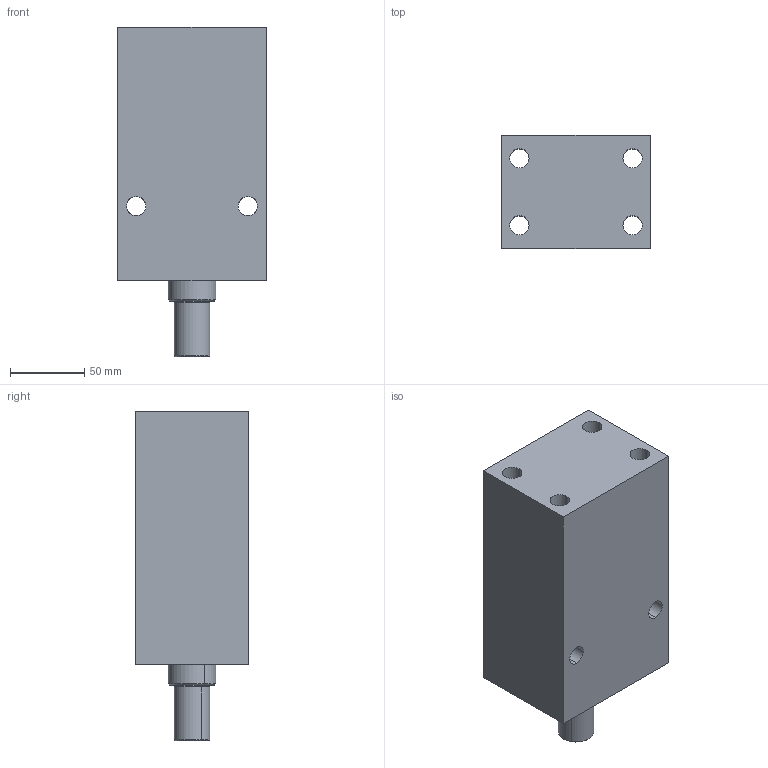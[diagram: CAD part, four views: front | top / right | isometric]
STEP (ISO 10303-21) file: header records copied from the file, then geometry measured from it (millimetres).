
FILE_DESCRIPTION (( 'STEP AP203' ), '1' );
FILE_NAME ('Block cylinder B01C-510M.STEP', '2022-07-09T18:13:58', ( '' ), ( '' ), 'SwSTEP 2.0', 'SolidWorks 2017', '' );
FILE_SCHEMA (( 'CONFIG_CONTROL_DESIGN' ));
Length unit declared in the file: millimetre
Products named in the file (3): Block cylinder B01C-510M; Body_ 510M_50ST; Piston _ 510M
Assembly tree (2 placements, depth 2):
  Block cylinder B01C-510M
    Body_ 510M_50ST
    Piston _ 510M
Bounding box: 100 x 76 x 221 mm (x, y, z)
Volume: 1312692.5 mm3; surface area: 133018.2 mm2
Topology: 2 solids, 2 shells, 338 faces, 940 edges, 622 vertices
Faces by surface type: bspline 152, plane 144, cylinder 34, cone 8
Entity records: 17937 total; most frequent: CARTESIAN_POINT 9989, ORIENTED_EDGE 1872, DIRECTION 1054, EDGE_CURVE 936, VERTEX_POINT 622, VECTOR 544, LINE 544, EDGE_LOOP 378
